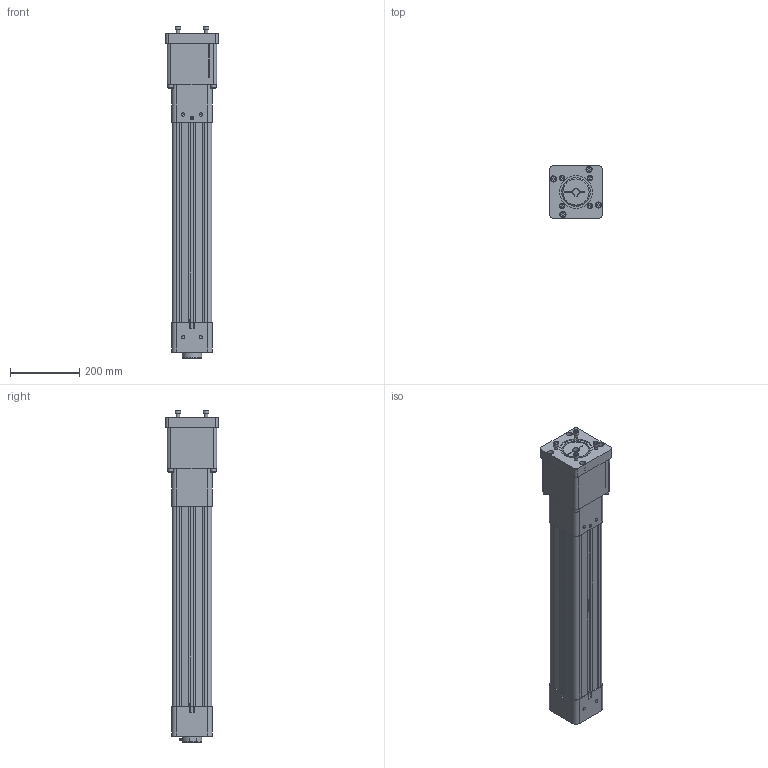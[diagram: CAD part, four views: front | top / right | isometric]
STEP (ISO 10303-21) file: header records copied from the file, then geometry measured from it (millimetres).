
FILE_DESCRIPTION (( 'STEP AP203' ), '1' );
FILE_NAME ('RSA64_BN04_SK15.000_RS-485300-1.step', '2025-04-02T18:31:42', ( '' ), ( '' ), 'SwSTEP 2.0', 'SolidWorks 2024', '' );
FILE_SCHEMA (( 'CONFIG_CONTROL_DESIGN' ));
Length unit declared in the file: inch
Products named in the file (3): tempJoin0_11649327_RSA64_BN04_SK15.000_RS-485300-1; RSA64_BN04_SK15.000_RS-485300-1; Base_RSA64_BN04_SK15.000_RS-485300-1
Assembly tree (2 placements, depth 2):
  RSA64_BN04_SK15.000_RS-485300-1
    tempJoin0_11649327_RSA64_BN04_SK15.000_RS-485300-1
    Base_RSA64_BN04_SK15.000_RS-485300-1
Bounding box: 149.86 x 149.86 x 956.03 mm (x, y, z)
Volume: 9800649.1 mm3; surface area: 1073753 mm2
Topology: 3 solids, 21 shells, 762 faces, 1776 edges, 1141 vertices
Faces by surface type: plane 509, cylinder 173, cone 70, torus 10
Full cylindrical faces by diameter (mm): 5 x1, 5.41 x1, 6.35 x2, 8.499 x4, 9.347 x8, 9.525 x2, 10 x12, 10.025 x4, 10.312 x2, 10.719 x4, 10.72 x4, 10.75 x6, 12.7 x1, 12.771 x5, 14.275 x2, 14.3 x2, 15.875 x2, 16 x12, 17.5 x4, 18 x8, 19.1 x4, 19.837 x4, 25.375 x1, 29.769 x1, 47.244 x1, 57.135 x1, 57.15 x2, 63.906 x1, 65.456 x1, 67.005 x1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
Entity records: 21186 total; most frequent: CARTESIAN_POINT 4335, DIRECTION 3506, ORIENTED_EDGE 3022, EDGE_CURVE 1511, AXIS2_PLACEMENT_3D 1251, VERTEX_POINT 1065, EDGE_LOOP 1062, LINE 1004
